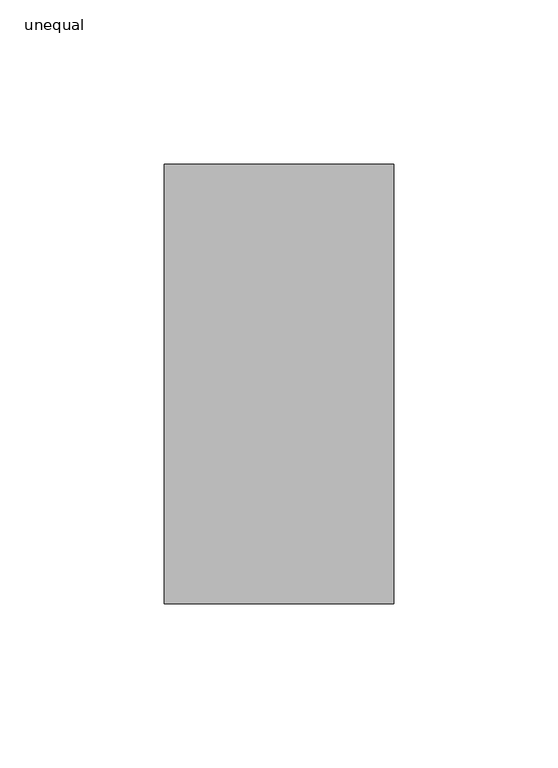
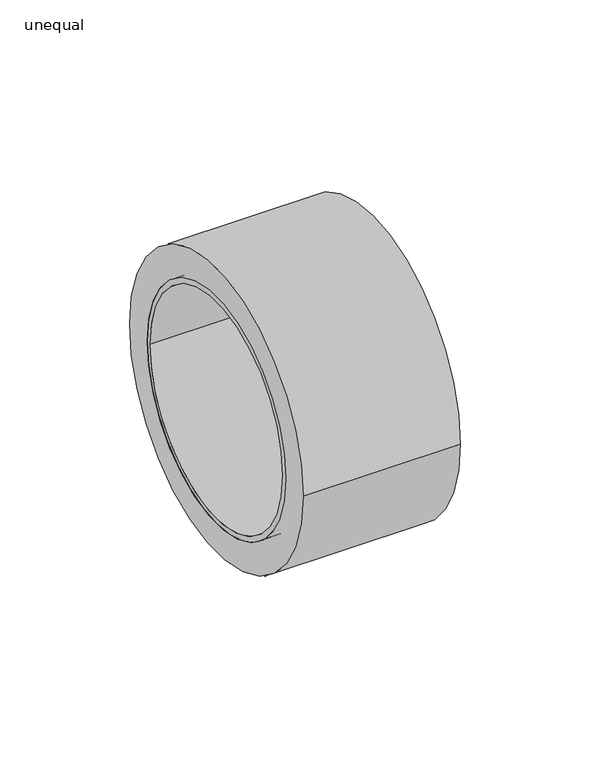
"""IFC4 building model written with IfcOpenShell, lengths in millimetres: pipe fitting geometry, PIF_ST_UN_GM-X compound pipe multi-tee_ACO : unequal."""

from ifc_helpers import new_model, si_unit, point, frame, origin, origin_2d, place, context, project, spatial, polyline, circle_curve, trimmed, segment, composite_curve, outline, extrude, source, transform, mapped, element, save
from ifc_brep_helpers import plane_surface, cylinder_surface, revolved_surface, advanced_brep


def unequal_23b936e7(model_context):
    return source(origin(), model_context, "Body", "SolidModel", [
        extrude(outline(composite_curve([segment(trimmed(circle_curve(origin_2d(), 67.0), [point((67.0, 0.0))], [point((-67.0, 0.0))], False, "CARTESIAN"), True, "CONTINUOUS"), segment(trimmed(circle_curve(origin_2d(), 67.0), [point((-67.0, 0.0))], [point((67.0, 0.0))], False, "CARTESIAN"), True, "CONTINUOUS")], self_intersect=False), holes=[composite_curve([segment(trimmed(circle_curve(origin_2d(), 53.5), [point((-53.5, 0.0))], [point((53.5, 0.0))], True, "CARTESIAN"), True, "CONTINUOUS"), segment(trimmed(circle_curve(origin_2d(), 53.5), [point((53.5, 0.0))], [point((-53.5, 0.0))], True, "CARTESIAN"), True, "CONTINUOUS")], self_intersect=False)]), frame((-90.0, 0.0, 0.0), z_axis=(1.0, 0.0, 0.0), x_axis=(0.0, 1.0, 0.0)), (0.0, 0.0, 1.0), 70.0),
        advanced_brep(
        [(-90.0, 53.5, 0.0), (-90.0, -53.5, 0.0), (-90.0, -51.0, 0.0), (-90.0, 51.0, 0.0), (-20.0, 53.5, 0.0), (-20.0, -53.5, 0.0), (-20.0, 51.0, 0.0), (-20.0, -51.0, 0.0), (-57.0, 53.5, 0.0), (-57.0, -53.5, 0.0), (-28.3, -53.5, 0.0), (-28.3, 53.5, 0.0), (-57.0, 59.0, 0.0), (-57.0, -59.0, 0.0), (-28.3, 59.0, 0.0), (-28.3, -59.0, 0.0)],
        [
            (0, 1, circle_curve(frame((-90.0, 0.0, 0.0), z_axis=(-1.0, 0.0, 0.0), x_axis=(0.0, -1.0, 0.0)), 53.5)),
            (1, 0, circle_curve(frame((-90.0, 0.0, 0.0), z_axis=(-1.0, 0.0, 0.0), x_axis=(0.0, -1.0, 0.0)), 53.5)),
            (2, 3, circle_curve(frame((-90.0, 0.0, 0.0), z_axis=(1.0, 0.0, 0.0), x_axis=(0.0, -1.0, 0.0)), 51.0)),
            (3, 2, circle_curve(frame((-90.0, 0.0, 0.0), z_axis=(1.0, 0.0, 0.0), x_axis=(0.0, -1.0, 0.0)), 51.0)),
            (4, 5, circle_curve(frame((-20.0, 0.0, 0.0), z_axis=(1.0, 0.0, 0.0), x_axis=(0.0, -1.0, 0.0)), 53.5)),
            (5, 4, circle_curve(frame((-20.0, 0.0, 0.0), z_axis=(1.0, 0.0, 0.0), x_axis=(0.0, -1.0, 0.0)), 53.5)),
            (6, 7, circle_curve(frame((-20.0, 0.0, 0.0), z_axis=(-1.0, 0.0, 0.0), x_axis=(0.0, -1.0, 0.0)), 51.0)),
            (7, 6, circle_curve(frame((-20.0, 0.0, 0.0), z_axis=(-1.0, 0.0, 0.0), x_axis=(0.0, -1.0, 0.0)), 51.0)),
            (0, 8),
            (8, 9, circle_curve(frame((-57.0, 0.0, 0.0), z_axis=(-1.0, 0.0, 0.0), x_axis=(0.0, -1.0, 0.0)), 53.5)),
            (9, 1),
            (5, 10),
            (10, 11, circle_curve(frame((-28.3, 0.0, 0.0), z_axis=(1.0, 0.0, 0.0), x_axis=(0.0, -1.0, 0.0)), 53.5)),
            (11, 4),
            (9, 8, circle_curve(frame((-57.0, 0.0, 0.0), z_axis=(-1.0, 0.0, 0.0), x_axis=(0.0, -1.0, 0.0)), 53.5)),
            (11, 10, circle_curve(frame((-28.3, 0.0, 0.0), z_axis=(1.0, 0.0, 0.0), x_axis=(0.0, -1.0, 0.0)), 53.5)),
            (2, 7),
            (6, 3),
            (12, 13, circle_curve(frame((-57.0, 0.0, 0.0), z_axis=(-1.0, 0.0, 0.0), x_axis=(0.0, -1.0, 0.0)), 59.0)),
            (13, 12, circle_curve(frame((-57.0, 0.0, 0.0), z_axis=(-1.0, 0.0, 0.0), x_axis=(0.0, -1.0, 0.0)), 59.0)),
            (14, 15, circle_curve(frame((-28.3, 0.0, 0.0), z_axis=(1.0, 0.0, 0.0), x_axis=(0.0, -1.0, 0.0)), 59.0)),
            (15, 14, circle_curve(frame((-28.3, 0.0, 0.0), z_axis=(1.0, 0.0, 0.0), x_axis=(0.0, -1.0, 0.0)), 59.0)),
            (12, 14),
            (15, 13),
        ],
        [
            plane_surface(frame((-90.0, -53.5, 0.0), z_axis=(-1.0, 0.0, 0.0), x_axis=(0.0, 0.0, 1.0))),
            plane_surface(frame((-20.0, -53.5, 0.0), z_axis=(1.0, 0.0, 0.0), x_axis=(0.0, 0.0, -1.0))),
            cylinder_surface(frame((-20.0, 0.0, 0.0), z_axis=(-1.0, 0.0, 0.0), x_axis=(0.0, -1.0, 0.0)), 53.5),
            revolved_surface(polyline([(-90.0, -51.0, 0.0), (-20.0, -51.0, 0.0)]), (-20.0, 0.0, 0.0), (-1.0, 0.0, 0.0)),
            plane_surface(frame((-57.0, -59.0, 0.0), z_axis=(-1.0, 0.0, 0.0), x_axis=(0.0, 0.0, 1.0))),
            plane_surface(frame((-28.3, -59.0, 0.0), z_axis=(1.0, 0.0, 0.0), x_axis=(0.0, 0.0, -1.0))),
            cylinder_surface(frame((-28.3, 0.0, 0.0), z_axis=(-1.0, 0.0, 0.0), x_axis=(0.0, -1.0, 0.0)), 59.0),
        ],
        [
            (0, [[1, 2], [3, 4]]),
            (1, [[5, 6], [7, 8]]),
            (2, [[-1, 9, 10, 11]]),
            (2, [[-6, 12, 13, 14]]),
            (2, [[-2, -11, 15, -9]]),
            (2, [[-5, -14, 16, -12]]),
            (3, [[17, -7, 18, -3]]),
            (3, [[-17, -4, -18, -8]]),
            (4, [[19, 20], [-10, -15]]),
            (5, [[21, 22], [-13, -16]]),
            (6, [[-19, 23, -22, 24]]),
            (6, [[-20, -24, -21, -23]]),
        ],
    ),
    ])


if __name__ == "__main__":
    model = new_model("IFC4")
    model_context = context("Model", 3, world=origin())
    ifc_project = project(units=[si_unit("LENGTHUNIT", "METRE", prefix="MILLI")], contexts=[model_context])
    site = spatial("IfcSite", under=ifc_project)
    building = spatial("IfcBuilding", under=site)
    placement = place(None, origin())
    unequal_shape = unequal_23b936e7(model_context)
    element("IfcPipeFitting", 1, ObjectType="PIF_ST_UN_GM-X compound pipe multi-tee_ACO : unequal", at=placement, inside=building, context=model_context, shape_type="MappedRepresentation", body=[
        mapped(unequal_shape, transform((0.0, 0.0, 0.0), x_axis=(1.0, 0.0, 0.0), y_axis=(0.0, 1.0, 0.0), z_axis=(0.0, 0.0, 1.0))),
    ])
    save(model, "model.ifc")
